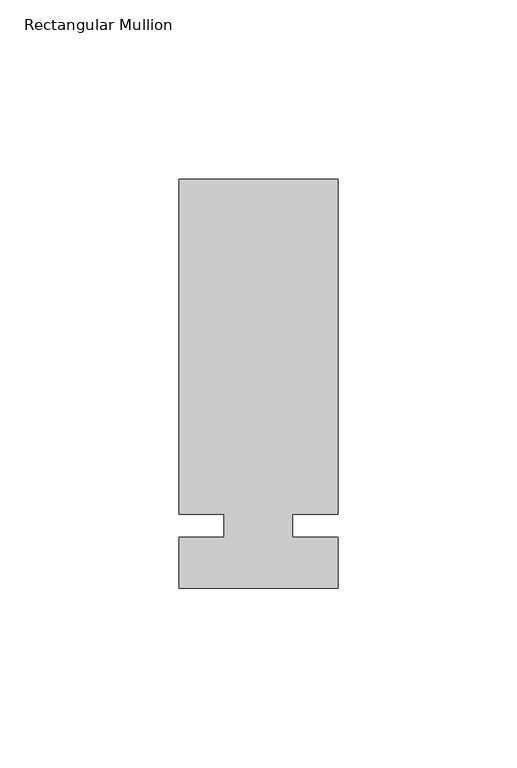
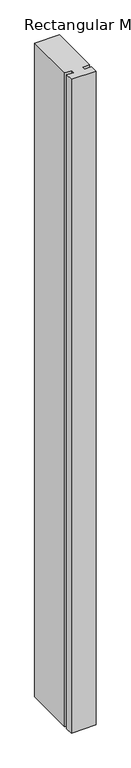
"""IFC4 building model written with IfcOpenShell, lengths in millimetres: member geometry, Rectangular Mullion : Kawneer-TRIFAB_VG_450_BACK_SB_Horizontal."""

from ifc_helpers import new_model, si_unit, frame, origin, place, context, project, spatial, polyline, outline, extrude, source, transform, mapped, element, save


def rectangular_mullion_10cdd00b(model_context):
    return source(origin(), model_context, "Body", "SweptSolid", [
        extrude(outline(polyline([(26.5594027, -17.4625), (-17.8905973, -17.4625), (-17.8905973, -3.2050658), (-5.1905973, -3.2050658), (-5.1905973, 3.1449342), (-17.8905973, 3.1449342), (-17.8905973, 96.8375), (26.5594027, 96.8375), (26.5594027, 3.1449342), (13.8576322, 3.1449342), (13.8576322, -3.2050658), (26.5594027, -3.2050658), (26.5594027, -17.4625)])), frame((0.0, 0.0, -1244.0440926), z_axis=(0.0, 0.0, 1.0), x_axis=(1.0, 0.0, 0.0)), (0.0, 0.0, 1.0), 1244.0440926),
    ])


if __name__ == "__main__":
    model = new_model("IFC4")
    model_context = context("Model", 3, world=origin())
    ifc_project = project(units=[si_unit("LENGTHUNIT", "METRE", prefix="MILLI")], contexts=[model_context])
    site = spatial("IfcSite", under=ifc_project)
    building = spatial("IfcBuilding", under=site)
    placement = place(None, origin())
    rectangular_mullion_shape = rectangular_mullion_10cdd00b(model_context)
    element("IfcMember", 1, ObjectType="Rectangular Mullion : Kawneer-TRIFAB_VG_450_BACK_SB_Horizontal", at=placement, inside=building, context=model_context, shape_type="MappedRepresentation", body=[
        mapped(rectangular_mullion_shape, transform((0.0, 0.0, 0.0), x_axis=(1.0, 0.0, 0.0), y_axis=(0.0, 1.0, 0.0), z_axis=(0.0, 0.0, 1.0))),
    ])
    save(model, "model.ifc")
